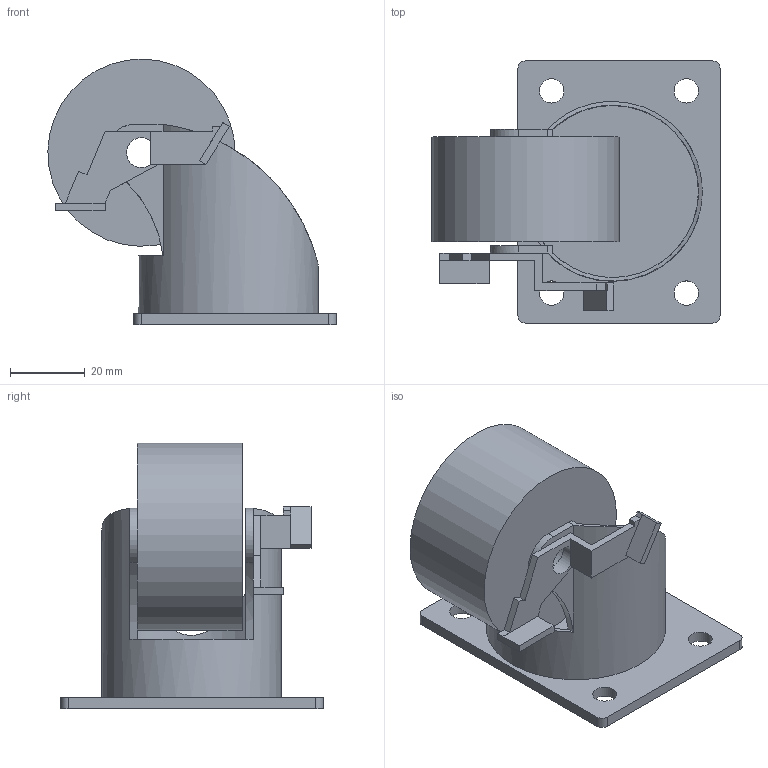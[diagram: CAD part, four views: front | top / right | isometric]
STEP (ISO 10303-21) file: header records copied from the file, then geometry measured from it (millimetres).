
FILE_DESCRIPTION((''),'2;1');
FILE_NAME('E:\catalogue and flyer\Profile catalogue 2015\Accessories- FM & wheel\foot mout & wheel stp file\JMS50-HP.stp','2016-04-08T09:27:19',('h029'),(''),'Autodesk Inventor 11','Autodesk Inventor 11','');
FILE_SCHEMA(('AUTOMOTIVE_DESIGN { 1 0 10303 214 1 1 1 1 }'));
Length unit declared in the file: millimetre
Products named in the file (4): JMS50; plate 50; part3 50; wheel 50
Assembly tree (3 placements, depth 2):
  JMS50
    plate 50
    part3 50
    wheel 50
Bounding box: 77 x 70 x 71 mm (x, y, z)
Volume: 69610.1 mm3; surface area: 29740.8 mm2
Topology: 3 solids, 3 shells, 70 faces, 186 edges, 120 vertices
Faces by surface type: plane 51, cylinder 13, bspline 6
Full cylindrical faces by diameter (mm): 12 x1, 46 x1, 48 x1, 50 x1
Entity records: 2454 total; most frequent: CARTESIAN_POINT 654, DIRECTION 351, ORIENTED_EDGE 342, EDGE_CURVE 171, VECTOR 123, LINE 123, VERTEX_POINT 115, AXIS2_PLACEMENT_3D 114
